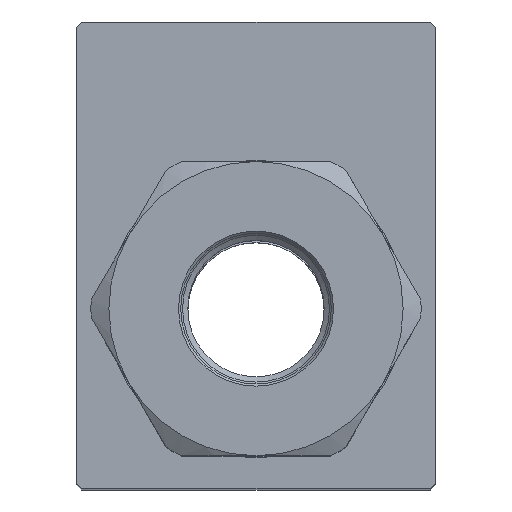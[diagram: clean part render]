
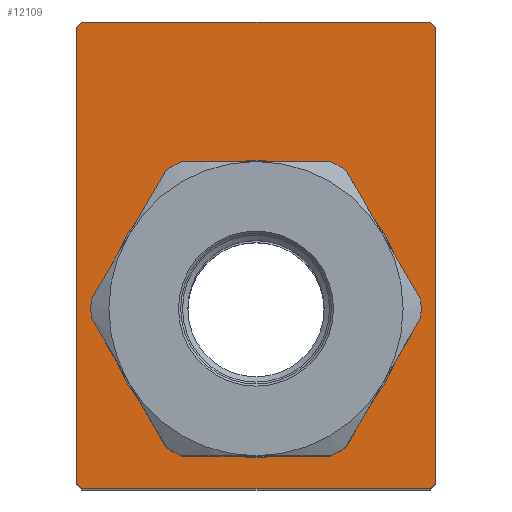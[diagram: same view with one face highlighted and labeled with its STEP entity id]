
A CAD part, top view. The second image highlights one B-rep face of the part: STEP entity #12109.
In plain terms, the highlighted planar face has unit normal (0, 0, 1).
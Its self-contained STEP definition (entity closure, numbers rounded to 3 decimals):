
#1203 = DIRECTION ( 'NONE',  ( -0.707, -0.707, 0. ) ) ;
#1228 = ORIENTED_EDGE ( 'NONE', *, *, #17989, .T. ) ;
#1364 = VECTOR ( 'NONE', #4878, 1000. ) ;
#2831 = ORIENTED_EDGE ( 'NONE', *, *, #12492, .T. ) ;
#2908 = CARTESIAN_POINT ( 'NONE',  ( -24.65, -24.65, 62. ) ) ;
#3086 = ORIENTED_EDGE ( 'NONE', *, *, #10934, .T. ) ;
#3090 = ORIENTED_EDGE ( 'NONE', *, *, #16036, .T. ) ;
#3173 = ORIENTED_EDGE ( 'NONE', *, *, #13841, .T. ) ;
#3259 = ORIENTED_EDGE ( 'NONE', *, *, #8382, .T. ) ;
#3308 = VECTOR ( 'NONE', #11208, 1000. ) ;
#4070 = DIRECTION ( 'NONE',  ( 1., 0., 0. ) ) ;
#4455 = EDGE_LOOP ( 'NONE', ( #17354 ) ) ;
#4703 = DIRECTION ( 'NONE',  ( 0.707, 0.707, 0. ) ) ;
#4797 = VERTEX_POINT ( 'NONE', #13528 ) ;
#4878 = DIRECTION ( 'NONE',  ( 1., 0., 0. ) ) ;
#5093 = DIRECTION ( 'NONE',  ( 0., 0., 1. ) ) ;
#5321 = VERTEX_POINT ( 'NONE', #10133 ) ;
#5569 = CARTESIAN_POINT ( 'NONE',  ( -25., -25., 62. ) ) ;
#5887 = FACE_BOUND ( 'NONE', #4455, .T. ) ;
#5998 = CARTESIAN_POINT ( 'NONE',  ( -24.3, 40., 62. ) ) ;
#6372 = VECTOR ( 'NONE', #8018, 1000. ) ;
#6491 = LINE ( 'NONE', #8049, #15213 ) ;
#6768 = EDGE_CURVE ( 'NONE', #11641, #11641, #10874, .T. ) ;
#7240 = PLANE ( 'NONE',  #15422 ) ;
#7555 = CARTESIAN_POINT ( 'NONE',  ( -25., 39.3, 62. ) ) ;
#8013 = DIRECTION ( 'NONE',  ( 0., -1., 0. ) ) ;
#8018 = DIRECTION ( 'NONE',  ( -1., 0., 0. ) ) ;
#8024 = CARTESIAN_POINT ( 'NONE',  ( 0., 0., 62. ) ) ;
#8049 = CARTESIAN_POINT ( 'NONE',  ( -0.35, -49.65, 62. ) ) ;
#8367 = CARTESIAN_POINT ( 'NONE',  ( 25., 40., 62. ) ) ;
#8382 = EDGE_CURVE ( 'NONE', #4797, #18754, #9328, .T. ) ;
#8497 = VERTEX_POINT ( 'NONE', #5998 ) ;
#8528 = LINE ( 'NONE', #18497, #6372 ) ;
#8737 = CARTESIAN_POINT ( 'NONE',  ( 25., -24.3, 62. ) ) ;
#8875 = VECTOR ( 'NONE', #12971, 1000. ) ;
#9328 = LINE ( 'NONE', #16247, #1364 ) ;
#10133 = CARTESIAN_POINT ( 'NONE',  ( 25., 39.3, 62. ) ) ;
#10428 = VECTOR ( 'NONE', #1203, 1000. ) ;
#10874 = CIRCLE ( 'NONE', #16610, 20.75 ) ;
#10900 = LINE ( 'NONE', #12857, #10428 ) ;
#10934 = EDGE_CURVE ( 'NONE', #13698, #17139, #12146, .T. ) ;
#11208 = DIRECTION ( 'NONE',  ( -0.707, 0.707, 0. ) ) ;
#11641 = VERTEX_POINT ( 'NONE', #12289 ) ;
#11854 = EDGE_CURVE ( 'NONE', #18793, #8497, #8528, .T. ) ;
#12109 = ADVANCED_FACE ( 'NONE', ( #12535, #5887 ), #7240, .T. ) ;
#12146 = LINE ( 'NONE', #16867, #18451 ) ;
#12289 = CARTESIAN_POINT ( 'NONE',  ( 20.75, 0., 62. ) ) ;
#12492 = EDGE_CURVE ( 'NONE', #8497, #13698, #10900, .T. ) ;
#12535 = FACE_OUTER_BOUND ( 'NONE', #13667, .T. ) ;
#12857 = CARTESIAN_POINT ( 'NONE',  ( -57.15, 7.15, 62. ) ) ;
#12971 = DIRECTION ( 'NONE',  ( 0., 1., 0. ) ) ;
#13050 = DIRECTION ( 'NONE',  ( 0., 0., 1. ) ) ;
#13282 = DIRECTION ( 'NONE',  ( 0.707, -0.707, 0. ) ) ;
#13528 = CARTESIAN_POINT ( 'NONE',  ( -24.3, -25., 62. ) ) ;
#13667 = EDGE_LOOP ( 'NONE', ( #3090, #15067, #16087, #2831, #3086, #1228, #3259, #3173 ) ) ;
#13698 = VERTEX_POINT ( 'NONE', #7555 ) ;
#13841 = EDGE_CURVE ( 'NONE', #18754, #15004, #6491, .T. ) ;
#14131 = LINE ( 'NONE', #14824, #3308 ) ;
#14721 = EDGE_CURVE ( 'NONE', #5321, #18793, #14131, .T. ) ;
#14824 = CARTESIAN_POINT ( 'NONE',  ( 32.15, 32.15, 62. ) ) ;
#15004 = VERTEX_POINT ( 'NONE', #8737 ) ;
#15067 = ORIENTED_EDGE ( 'NONE', *, *, #14721, .T. ) ;
#15200 = CARTESIAN_POINT ( 'NONE',  ( 24.3, 40., 62. ) ) ;
#15213 = VECTOR ( 'NONE', #4703, 1000. ) ;
#15247 = LINE ( 'NONE', #2908, #18555 ) ;
#15422 = AXIS2_PLACEMENT_3D ( 'NONE', #5569, #13050, #4070 ) ;
#15736 = DIRECTION ( 'NONE',  ( 1., 0., 0. ) ) ;
#15800 = LINE ( 'NONE', #8367, #8875 ) ;
#16036 = EDGE_CURVE ( 'NONE', #15004, #5321, #15800, .T. ) ;
#16087 = ORIENTED_EDGE ( 'NONE', *, *, #11854, .T. ) ;
#16247 = CARTESIAN_POINT ( 'NONE',  ( -25., -25., 62. ) ) ;
#16610 = AXIS2_PLACEMENT_3D ( 'NONE', #8024, #5093, #15736 ) ;
#16867 = CARTESIAN_POINT ( 'NONE',  ( -25., 40., 62. ) ) ;
#17139 = VERTEX_POINT ( 'NONE', #18421 ) ;
#17354 = ORIENTED_EDGE ( 'NONE', *, *, #6768, .F. ) ;
#17989 = EDGE_CURVE ( 'NONE', #17139, #4797, #15247, .T. ) ;
#18421 = CARTESIAN_POINT ( 'NONE',  ( -25., -24.3, 62. ) ) ;
#18451 = VECTOR ( 'NONE', #8013, 1000. ) ;
#18497 = CARTESIAN_POINT ( 'NONE',  ( -25., 40., 62. ) ) ;
#18555 = VECTOR ( 'NONE', #13282, 1000. ) ;
#18754 = VERTEX_POINT ( 'NONE', #18839 ) ;
#18793 = VERTEX_POINT ( 'NONE', #15200 ) ;
#18839 = CARTESIAN_POINT ( 'NONE',  ( 24.3, -25., 62. ) ) ;
